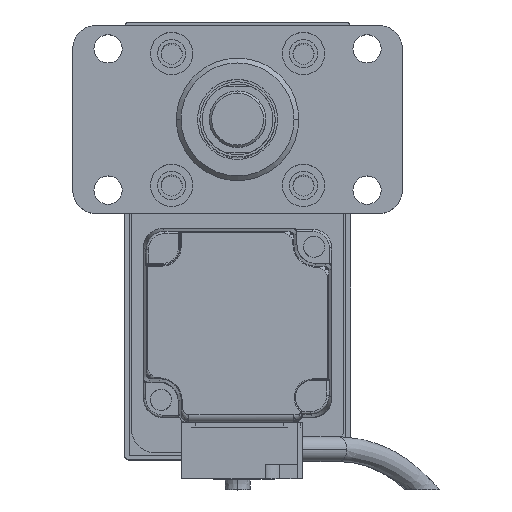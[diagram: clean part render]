
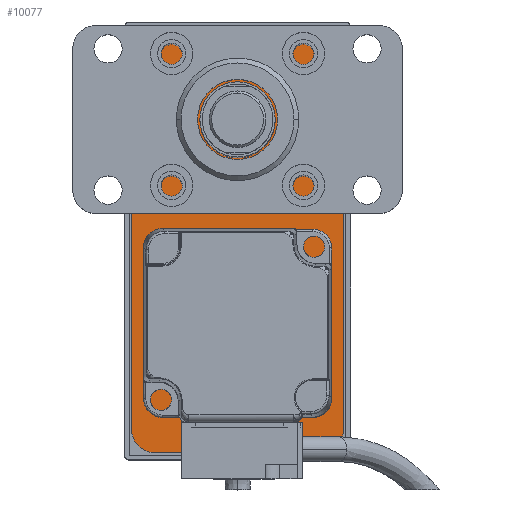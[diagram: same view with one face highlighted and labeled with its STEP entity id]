
A CAD part, top view. The second image highlights one B-rep face of the part: STEP entity #10077.
In plain terms, the highlighted planar face has unit normal (0, 0, 1).
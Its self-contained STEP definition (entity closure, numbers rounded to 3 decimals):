
#812 = EDGE_LOOP ( 'NONE', ( #20919, #1817, #3483, #13649, #18697, #24815, #1545, #12311 ) ) ;
#877 = CARTESIAN_POINT ( 'NONE',  ( 17.5, 40., 10. ) ) ;
#1099 = VERTEX_POINT ( 'NONE', #8648 ) ;
#1344 = EDGE_CURVE ( 'NONE', #11700, #1099, #2852, .T. ) ;
#1545 = ORIENTED_EDGE ( 'NONE', *, *, #1344, .T. ) ;
#1794 = CARTESIAN_POINT ( 'NONE',  ( -22.5, -45., 10. ) ) ;
#1817 = ORIENTED_EDGE ( 'NONE', *, *, #15839, .T. ) ;
#2073 = AXIS2_PLACEMENT_3D ( 'NONE', #13965, #15906, #6231 ) ;
#2105 = CIRCLE ( 'NONE', #12843, 5. ) ;
#2329 = CARTESIAN_POINT ( 'NONE',  ( -17.5, 40., 10. ) ) ;
#2776 = CARTESIAN_POINT ( 'NONE',  ( -17.5, -45., 10. ) ) ;
#2852 = LINE ( 'NONE', #7445, #12770 ) ;
#2971 = LINE ( 'NONE', #1794, #24291 ) ;
#3483 = ORIENTED_EDGE ( 'NONE', *, *, #24344, .T. ) ;
#3554 = PLANE ( 'NONE',  #7704 ) ;
#3852 = DIRECTION ( 'NONE',  ( -1., 0., 0. ) ) ;
#3902 = VERTEX_POINT ( 'NONE', #23373 ) ;
#6050 = DIRECTION ( 'NONE',  ( 1., 0., 0. ) ) ;
#6139 = DIRECTION ( 'NONE',  ( 0., 0., 1. ) ) ;
#6231 = DIRECTION ( 'NONE',  ( 1., 0., 0. ) ) ;
#6534 = DIRECTION ( 'NONE',  ( 1., 0., 0. ) ) ;
#6547 = DIRECTION ( 'NONE',  ( 0., 0., 1. ) ) ;
#7397 = VERTEX_POINT ( 'NONE', #9013 ) ;
#7412 = VERTEX_POINT ( 'NONE', #22422 ) ;
#7445 = CARTESIAN_POINT ( 'NONE',  ( 22.5, -45., 10. ) ) ;
#7704 = AXIS2_PLACEMENT_3D ( 'NONE', #24888, #20960, #22963 ) ;
#8488 = AXIS2_PLACEMENT_3D ( 'NONE', #877, #6547, #16050 ) ;
#8648 = CARTESIAN_POINT ( 'NONE',  ( 17.5, -45., 10. ) ) ;
#9013 = CARTESIAN_POINT ( 'NONE',  ( -17.5, 45., 10. ) ) ;
#9243 = DIRECTION ( 'NONE',  ( 0., -1., 0. ) ) ;
#9550 = DIRECTION ( 'NONE',  ( 1., 0., 0. ) ) ;
#9552 = AXIS2_PLACEMENT_3D ( 'NONE', #11903, #21567, #6534 ) ;
#10077 = ADVANCED_FACE ( 'NONE', ( #12342 ), #3554, .T. ) ;
#10535 = LINE ( 'NONE', #15999, #23450 ) ;
#11700 = VERTEX_POINT ( 'NONE', #2776 ) ;
#11903 = CARTESIAN_POINT ( 'NONE',  ( 17.5, -40., 10. ) ) ;
#11980 = EDGE_CURVE ( 'NONE', #16755, #11700, #19479, .T. ) ;
#12311 = ORIENTED_EDGE ( 'NONE', *, *, #22856, .T. ) ;
#12342 = FACE_OUTER_BOUND ( 'NONE', #812, .T. ) ;
#12628 = VERTEX_POINT ( 'NONE', #23237 ) ;
#12770 = VECTOR ( 'NONE', #9550, 1000. ) ;
#12843 = AXIS2_PLACEMENT_3D ( 'NONE', #2329, #6139, #6050 ) ;
#13649 = ORIENTED_EDGE ( 'NONE', *, *, #17573, .T. ) ;
#13965 = CARTESIAN_POINT ( 'NONE',  ( -17.5, -40., 10. ) ) ;
#15391 = CARTESIAN_POINT ( 'NONE',  ( 22.5, 45., 10. ) ) ;
#15839 = EDGE_CURVE ( 'NONE', #12628, #18478, #18398, .T. ) ;
#15906 = DIRECTION ( 'NONE',  ( 0., 0., 1. ) ) ;
#15999 = CARTESIAN_POINT ( 'NONE',  ( 22.5, -45., 10. ) ) ;
#16050 = DIRECTION ( 'NONE',  ( 1., 0., 0. ) ) ;
#16098 = VECTOR ( 'NONE', #3852, 1000. ) ;
#16470 = CIRCLE ( 'NONE', #9552, 5. ) ;
#16755 = VERTEX_POINT ( 'NONE', #22424 ) ;
#17573 = EDGE_CURVE ( 'NONE', #7397, #7412, #2105, .T. ) ;
#17900 = DIRECTION ( 'NONE',  ( 0., 1., 0. ) ) ;
#18398 = CIRCLE ( 'NONE', #8488, 5. ) ;
#18478 = VERTEX_POINT ( 'NONE', #24796 ) ;
#18602 = EDGE_CURVE ( 'NONE', #3902, #12628, #10535, .T. ) ;
#18697 = ORIENTED_EDGE ( 'NONE', *, *, #19330, .T. ) ;
#19330 = EDGE_CURVE ( 'NONE', #7412, #16755, #2971, .T. ) ;
#19479 = CIRCLE ( 'NONE', #2073, 5. ) ;
#20919 = ORIENTED_EDGE ( 'NONE', *, *, #18602, .T. ) ;
#20960 = DIRECTION ( 'NONE',  ( 0., 0., 1. ) ) ;
#21567 = DIRECTION ( 'NONE',  ( 0., 0., 1. ) ) ;
#22422 = CARTESIAN_POINT ( 'NONE',  ( -22.5, 40., 10. ) ) ;
#22424 = CARTESIAN_POINT ( 'NONE',  ( -22.5, -40., 10. ) ) ;
#22856 = EDGE_CURVE ( 'NONE', #1099, #3902, #16470, .T. ) ;
#22963 = DIRECTION ( 'NONE',  ( 1., 0., 0. ) ) ;
#23237 = CARTESIAN_POINT ( 'NONE',  ( 22.5, 40., 10. ) ) ;
#23373 = CARTESIAN_POINT ( 'NONE',  ( 22.5, -40., 10. ) ) ;
#23450 = VECTOR ( 'NONE', #17900, 1000. ) ;
#24291 = VECTOR ( 'NONE', #9243, 1000. ) ;
#24344 = EDGE_CURVE ( 'NONE', #18478, #7397, #24457, .T. ) ;
#24457 = LINE ( 'NONE', #15391, #16098 ) ;
#24796 = CARTESIAN_POINT ( 'NONE',  ( 17.5, 45., 10. ) ) ;
#24815 = ORIENTED_EDGE ( 'NONE', *, *, #11980, .T. ) ;
#24888 = CARTESIAN_POINT ( 'NONE',  ( 0., 0., 10. ) ) ;
